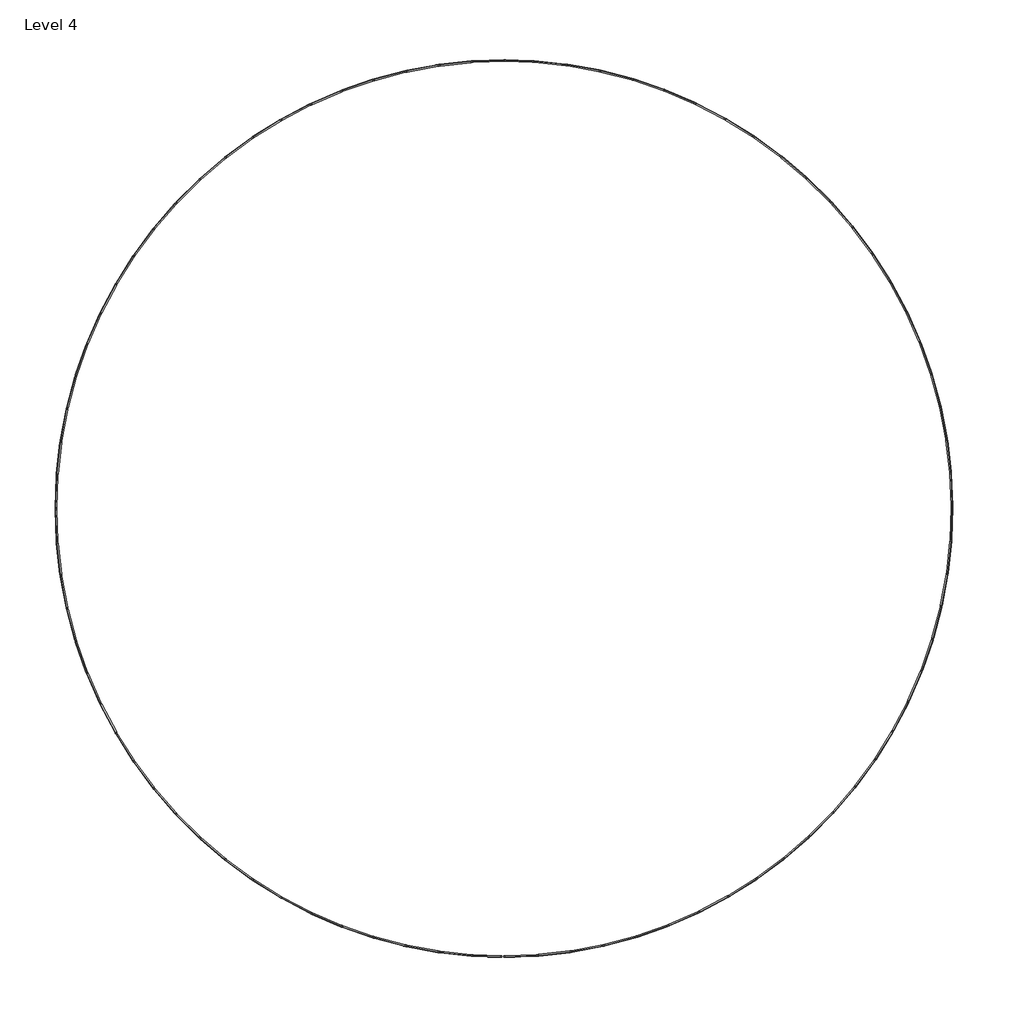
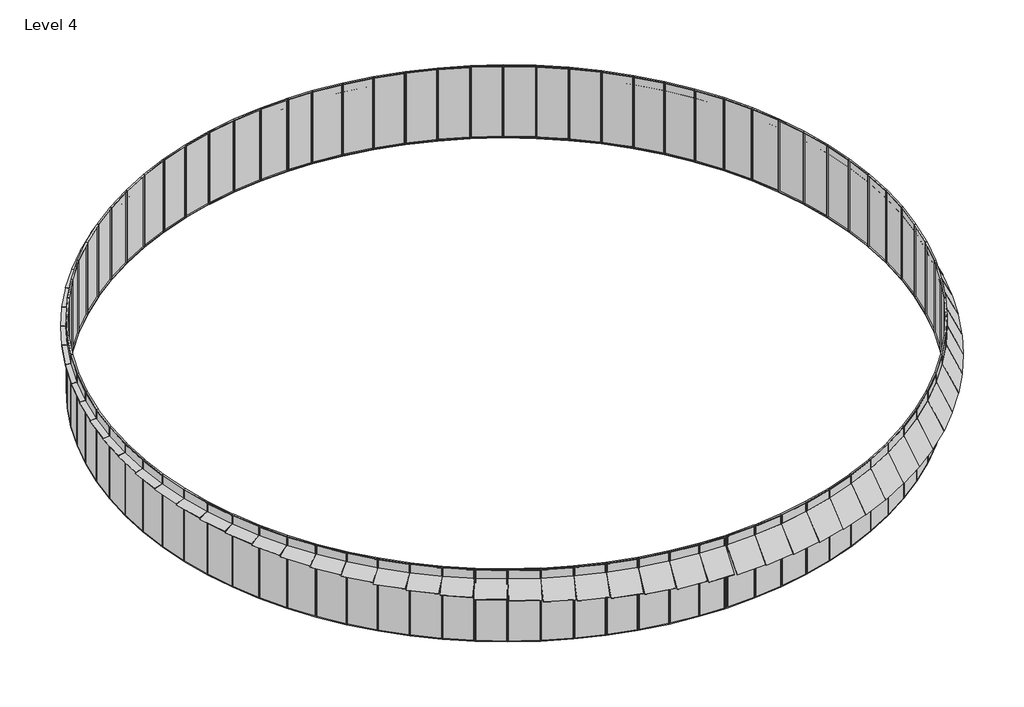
# One storey: 84 plates.
"""IFC4 building model written with IfcOpenShell, lengths in millimetres."""

from ifc_helpers import new_model, si_unit, origin, place, context, project, spatial, transform, mapped, element, save
from components import typical_panel_typical_panel_1dacabfa, typical_panel_typical_panel_de002282, typical_panel_typical_panel_c068772c, typical_panel_typical_panel_24d31985, typical_panel_typical_panel_bf64ccab, typical_panel_typical_panel_7269d920, typical_panel_typical_panel_007911d2, typical_panel_typical_panel_4d8c99ed, typical_panel_typical_panel_fa7228e3, typical_panel_typical_panel_21f6f527, typical_panel_typical_panel_994178b1, typical_panel_typical_panel_c4bb10ae, typical_panel_typical_panel_636d6651, typical_panel_typical_panel_3eeb6f99, typical_panel_typical_panel_d72680d6, typical_panel_typical_panel_fb959741, typical_panel_typical_panel_530a7cf6, typical_panel_typical_panel_7dcf532a, typical_panel_typical_panel_64653f65, typical_panel_typical_panel_a58b40de, typical_panel_typical_panel_9cbe78d2, typical_panel_typical_panel_3d8b9d05, typical_panel_typical_panel_1fc3b25d, typical_panel_typical_panel_199775df, typical_panel_typical_panel_5af8f8b4, typical_panel_typical_panel_9333b02c, typical_panel_typical_panel_dc0afd6a, typical_panel_typical_panel_484bad6c, typical_panel_typical_panel_78da2cf4, typical_panel_typical_panel_ad1c7da8, typical_panel_typical_panel_823978b0, typical_panel_typical_panel_4a132dac, typical_panel_typical_panel_328596d2, typical_panel_typical_panel_e094c6e8, typical_panel_typical_panel_4f07c011, typical_panel_typical_panel_1149305a, typical_panel_typical_panel_529db082, typical_panel_typical_panel_4d45919f, typical_panel_typical_panel_7d76078b, typical_panel_typical_panel_77cb67d9, typical_panel_typical_panel_1d00d27b, typical_panel_typical_panel_c6367479, typical_panel_typical_panel_41a3be12, typical_panel_typical_panel_8b2101b3, typical_panel_typical_panel_bbcebb09, typical_panel_typical_panel_16c89cbd, typical_panel_typical_panel_3222c149, typical_panel_typical_panel_e5a42394, typical_panel_typical_panel_2061968d, typical_panel_typical_panel_abac9c48, typical_panel_typical_panel_9d5c9c45, typical_panel_typical_panel_519964b2, typical_panel_typical_panel_5b56934d, typical_panel_typical_panel_f94381c8, typical_panel_typical_panel_f5345e9d, typical_panel_typical_panel_2c4e3443, typical_panel_typical_panel_39513247, typical_panel_typical_panel_b0a5b154, typical_panel_typical_panel_b5d764b4, typical_panel_typical_panel_f84c47da, typical_panel_typical_panel_3a207b21, typical_panel_typical_panel_b37b2822, typical_panel_typical_panel_48698c2b, typical_panel_typical_panel_2ea1af38, typical_panel_typical_panel_f19e842e, typical_panel_typical_panel_6d4a68ef

model = new_model("IFC4")

# Units and contexts
model_context = context("Model", 3, world=origin())
ifc_project = project(units=[si_unit("LENGTHUNIT", "METRE", prefix="MILLI")], contexts=[model_context])

# Site, building, storey
site = spatial("IfcSite", under=ifc_project)
building = spatial("IfcBuilding", under=site)
storey = spatial("IfcBuildingStorey", under=building, Name="Level 4", Elevation=12000.0)

# Plates
placement = place(None, origin())
typical_panel_typical_panel_shape = typical_panel_typical_panel_1dacabfa(model_context)
element("IfcPlate", 1, ObjectType="Typical Panel : Typical Panel", at=placement, inside=storey, context=model_context, shape_type="MappedRepresentation", body=[
    mapped(typical_panel_typical_panel_shape, transform((19849.0627371, 2334.9964577, 12000.0), x_axis=(-0.1168319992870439, 0.9931516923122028, 0.0), y_axis=(-0.9931516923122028, -0.1168319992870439, 0.0), z_axis=(0.0, 0.0, 1.0))),
])
typical_panel_typical_panel_2_shape = typical_panel_typical_panel_de002282(model_context)
element("IfcPlate", 2, ObjectType="Typical Panel : Typical Panel", at=placement, inside=storey, context=model_context, shape_type="MappedRepresentation", body=[
    mapped(typical_panel_typical_panel_2_shape, transform((5187.4522204, -19300.980272, 12000.0), x_axis=(0.9657282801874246, 0.25955517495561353, 0.0), y_axis=(-0.25955517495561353, 0.9657282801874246, 0.0), z_axis=(0.0, 0.0, 1.0))),
])
element("IfcPlate", 3, ObjectType="Typical Panel : Typical Panel", at=placement, inside=storey, context=model_context, shape_type="MappedRepresentation", body=[
    mapped(typical_panel_typical_panel_2_shape, transform((19618.2356917, 3816.0618893, 12000.0), x_axis=(-0.1909373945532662, 0.9816022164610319, 0.0), y_axis=(-0.9816022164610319, -0.1909373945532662, 0.0), z_axis=(0.0, 0.0, 1.0))),
])
typical_panel_typical_panel_3_shape = typical_panel_typical_panel_c068772c(model_context)
element("IfcPlate", 4, ObjectType="Typical Panel : Typical Panel", at=placement, inside=storey, context=model_context, shape_type="MappedRepresentation", body=[
    mapped(typical_panel_typical_panel_3_shape, transform((19277.0560706, 5275.6619728, 12000.0), x_axis=(-0.26396876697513, 0.9645312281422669, 0.0), y_axis=(-0.9645312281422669, -0.26396876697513, 0.0), z_axis=(0.0, 0.0, 1.0))),
])
typical_panel_typical_panel_4_shape = typical_panel_typical_panel_24d31985(model_context)
element("IfcPlate", 5, ObjectType="Typical Panel : Typical Panel", at=placement, inside=storey, context=model_context, shape_type="MappedRepresentation", body=[
    mapped(typical_panel_typical_panel_4_shape, transform((18271.9255806, 8097.7920187, 12000.0), x_axis=(-0.40517458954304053, 0.9142393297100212, 0.0), y_axis=(-0.9142393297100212, -0.40517458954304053, 0.0), z_axis=(0.0, 0.0, 1.0))),
])
typical_panel_typical_panel_5_shape = typical_panel_typical_panel_bf64ccab(model_context)
element("IfcPlate", 6, ObjectType="Typical Panel : Typical Panel", at=placement, inside=storey, context=model_context, shape_type="MappedRepresentation", body=[
    mapped(typical_panel_typical_panel_5_shape, transform((17613.6285707, 9444.4474996, 12000.0), x_axis=(-0.47255475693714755, 0.8813013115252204, 0.0), y_axis=(-0.8813013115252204, -0.47255475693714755, 0.0), z_axis=(0.0, 0.0, 1.0))),
])
typical_panel_typical_panel_6_shape = typical_panel_typical_panel_7269d920(model_context)
element("IfcPlate", 7, ObjectType="Typical Panel : Typical Panel", at=placement, inside=storey, context=model_context, shape_type="MappedRepresentation", body=[
    mapped(typical_panel_typical_panel_6_shape, transform((16856.2549002, 10737.9779633, 12000.0), x_axis=(-0.5372768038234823, 0.8434059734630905, 0.0), y_axis=(-0.8434059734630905, -0.5372768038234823, 0.0), z_axis=(0.0, 0.0, 1.0))),
])
typical_panel_typical_panel_7_shape = typical_panel_typical_panel_007911d2(model_context)
element("IfcPlate", 8, ObjectType="Typical Panel : Typical Panel", at=placement, inside=storey, context=model_context, shape_type="MappedRepresentation", body=[
    mapped(typical_panel_typical_panel_7_shape, transform((16004.0647958, 11971.107301, 12000.0), x_axis=(-0.5989766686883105, 0.8007664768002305, 0.0), y_axis=(-0.8007664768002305, -0.5989766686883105, 0.0), z_axis=(0.0, 0.0, 1.0))),
])
typical_panel_typical_panel_8_shape = typical_panel_typical_panel_4d8c99ed(model_context)
element("IfcPlate", 9, ObjectType="Typical Panel : Typical Panel", at=placement, inside=storey, context=model_context, shape_type="MappedRepresentation", body=[
    mapped(typical_panel_typical_panel_8_shape, transform((14034.9159415, 14228.7959615, 12000.0), x_axis=(-0.7119405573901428, 0.7022397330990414, 0.0), y_axis=(-0.7022397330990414, -0.7119405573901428, 0.0), z_axis=(0.0, 0.0, 1.0))),
])
typical_panel_typical_panel_9_shape = typical_panel_typical_panel_fa7228e3(model_context)
element("IfcPlate", 10, ObjectType="Typical Panel : Typical Panel", at=placement, inside=storey, context=model_context, shape_type="MappedRepresentation", body=[
    mapped(typical_panel_typical_panel_9_shape, transform((11750.4255521, 16166.7869209, 12000.0), x_axis=(-0.8089083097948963, 0.5879348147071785, 0.0), y_axis=(-0.5879348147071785, -0.8089083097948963, 0.0), z_axis=(0.0, 0.0, 1.0))),
])
typical_panel_typical_panel_10_shape = typical_panel_typical_panel_21f6f527(model_context)
element("IfcPlate", 11, ObjectType="Typical Panel : Typical Panel", at=placement, inside=storey, context=model_context, shape_type="MappedRepresentation", body=[
    mapped(typical_panel_typical_panel_10_shape, transform((10505.7213065, 17001.9798797, 12000.0), x_axis=(-0.8506973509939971, 0.5256557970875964, 0.0), y_axis=(-0.5256557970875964, -0.8506973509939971, 0.0), z_axis=(0.0, 0.0, 1.0))),
])
typical_panel_typical_panel_11_shape = typical_panel_typical_panel_994178b1(model_context)
element("IfcPlate", 12, ObjectType="Typical Panel : Typical Panel", at=placement, inside=storey, context=model_context, shape_type="MappedRepresentation", body=[
    mapped(typical_panel_typical_panel_11_shape, transform((7846.3626373, 18381.2973798, 12000.0), x_axis=(-0.9197117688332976, 0.39259427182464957, 0.0), y_axis=(-0.39259427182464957, -0.9197117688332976, 0.0), z_axis=(0.0, 0.0, 1.0))),
])
typical_panel_typical_panel_12_shape = typical_panel_typical_panel_c4bb10ae(model_context)
element("IfcPlate", 13, ObjectType="Typical Panel : Typical Panel", at=placement, inside=storey, context=model_context, shape_type="MappedRepresentation", body=[
    mapped(typical_panel_typical_panel_12_shape, transform((5010.7090725, 19347.6172846, 12000.0), x_axis=(-0.9680617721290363, 0.25071179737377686, 0.0), y_axis=(-0.25071179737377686, -0.9680617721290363, 0.0), z_axis=(0.0, 0.0, 1.0))),
])
typical_panel_typical_panel_13_shape = typical_panel_typical_panel_636d6651(model_context)
element("IfcPlate", 14, ObjectType="Typical Panel : Typical Panel", at=placement, inside=storey, context=model_context, shape_type="MappedRepresentation", body=[
    mapped(typical_panel_typical_panel_13_shape, transform((3546.5658003, 19668.7409618, 12000.0), x_axis=(-0.9841292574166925, 0.1774531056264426, 0.0), y_axis=(-0.1774531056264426, -0.9841292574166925, 0.0), z_axis=(0.0, 0.0, 1.0))),
])
typical_panel_typical_panel_14_shape = typical_panel_typical_panel_3eeb6f99(model_context)
element("IfcPlate", 15, ObjectType="Typical Panel : Typical Panel", at=placement, inside=storey, context=model_context, shape_type="MappedRepresentation", body=[
    mapped(typical_panel_typical_panel_14_shape, transform((2062.4730955, 19879.2279712, 12000.0), x_axis=(-0.9946610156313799, 0.10319624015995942, 0.0), y_axis=(-0.10319624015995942, -0.9946610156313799, 0.0), z_axis=(0.0, 0.0, 1.0))),
])
typical_panel_typical_panel_15_shape = typical_panel_typical_panel_d72680d6(model_context)
element("IfcPlate", 16, ObjectType="Typical Panel : Typical Panel", at=placement, inside=storey, context=model_context, shape_type="MappedRepresentation", body=[
    mapped(typical_panel_typical_panel_15_shape, transform((-2153.3010373, 19869.5947277, 12000.0), x_axis=(-0.9941790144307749, -0.10774083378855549, 0.0), y_axis=(0.10774083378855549, -0.9941790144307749, 0.0), z_axis=(0.0, 0.0, 1.0))),
])
typical_panel_typical_panel_16_shape = typical_panel_typical_panel_fb959741(model_context)
element("IfcPlate", 17, ObjectType="Typical Panel : Typical Panel", at=placement, inside=storey, context=model_context, shape_type="MappedRepresentation", body=[
    mapped(typical_panel_typical_panel_16_shape, transform((-5099.0767278, 19324.5159454, 12000.0), x_axis=(-0.9669058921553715, -0.25513329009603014, 0.0), y_axis=(0.25513329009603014, -0.9669058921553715, 0.0), z_axis=(0.0, 0.0, 1.0))),
])
element("IfcPlate", 18, ObjectType="Typical Panel : Typical Panel", at=placement, inside=storey, context=model_context, shape_type="MappedRepresentation", body=[
    mapped(typical_panel_typical_panel_16_shape, transform((-19635.4925688, -3726.248996, 12000.0), x_axis=(0.1864435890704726, -0.9824656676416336, 0.0), y_axis=(0.9824656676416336, 0.1864435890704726, 0.0), z_axis=(0.0, 0.0, 1.0))),
])
typical_panel_typical_panel_17_shape = typical_panel_typical_panel_530a7cf6(model_context)
element("IfcPlate", 19, ObjectType="Typical Panel : Typical Panel", at=placement, inside=storey, context=model_context, shape_type="MappedRepresentation", body=[
    mapped(typical_panel_typical_panel_17_shape, transform((-7930.2845299, 18345.2469941, 12000.0), x_axis=(-0.9179079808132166, -0.39679331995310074, 0.0), y_axis=(0.39679331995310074, -0.9179079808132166, 0.0), z_axis=(0.0, 0.0, 1.0))),
])
element("IfcPlate", 20, ObjectType="Typical Panel : Typical Panel", at=placement, inside=storey, context=model_context, shape_type="MappedRepresentation", body=[
    mapped(typical_panel_typical_panel_17_shape, transform((-19971.8772198, -749.4133163, 12000.0), x_axis=(0.03749704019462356, -0.9992967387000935, 0.0), y_axis=(0.9992967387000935, 0.03749704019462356, 0.0), z_axis=(0.0, 0.0, 1.0))),
])
typical_panel_typical_panel_18_shape = typical_panel_typical_panel_7dcf532a(model_context)
element("IfcPlate", 21, ObjectType="Typical Panel : Typical Panel", at=placement, inside=storey, context=model_context, shape_type="MappedRepresentation", body=[
    mapped(typical_panel_typical_panel_18_shape, transform((-9282.9063638, 17699.2979929, 12000.0), x_axis=(-0.8855877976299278, -0.4644720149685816, 0.0), y_axis=(0.4644720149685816, -0.8855877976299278, 0.0), z_axis=(0.0, 0.0, 1.0))),
])
element("IfcPlate", 22, ObjectType="Typical Panel : Typical Panel", at=placement, inside=storey, context=model_context, shape_type="MappedRepresentation", body=[
    mapped(typical_panel_typical_panel_18_shape, transform((-19971.8727801, 749.5316252, 12000.0), x_axis=(-0.037502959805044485, -0.9992965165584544, 0.0), y_axis=(0.9992965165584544, -0.037502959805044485, 0.0), z_axis=(0.0, 0.0, 1.0))),
])
typical_panel_typical_panel_19_shape = typical_panel_typical_panel_64653f65(model_context)
element("IfcPlate", 23, ObjectType="Typical Panel : Typical Panel", at=placement, inside=storey, context=model_context, shape_type="MappedRepresentation", body=[
    mapped(typical_panel_typical_panel_19_shape, transform((-10583.3118493, 16953.7904405, 12000.0), x_axis=(-0.8482861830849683, -0.5295380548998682, 0.0), y_axis=(0.5295380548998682, -0.8482861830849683, 0.0), z_axis=(0.0, 0.0, 1.0))),
])
typical_panel_typical_panel_20_shape = typical_panel_typical_panel_a58b40de(model_context)
element("IfcPlate", 24, ObjectType="Typical Panel : Typical Panel", at=placement, inside=storey, context=model_context, shape_type="MappedRepresentation", body=[
    mapped(typical_panel_typical_panel_20_shape, transform((-11824.1862057, 16112.9178169, 12000.0), x_axis=(-0.806212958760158, -0.5916254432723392, 0.0), y_axis=(0.5916254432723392, -0.806212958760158, 0.0), z_axis=(0.0, 0.0, 1.0))),
])
element("IfcPlate", 25, ObjectType="Typical Panel : Typical Panel", at=placement, inside=storey, context=model_context, shape_type="MappedRepresentation", body=[
    mapped(typical_panel_typical_panel_20_shape, transform((-19635.470495, 3726.3653123, 12000.0), x_axis=(-0.18644940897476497, -0.9824645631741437, 0.0), y_axis=(0.9824645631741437, -0.18644940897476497, 0.0), z_axis=(0.0, 0.0, 1.0))),
])
typical_panel_typical_panel_21_shape = typical_panel_typical_panel_9cbe78d2(model_context)
element("IfcPlate", 26, ObjectType="Typical Panel : Typical Panel", at=placement, inside=storey, context=model_context, shape_type="MappedRepresentation", body=[
    mapped(typical_panel_typical_panel_21_shape, transform((-12998.5495147, 15181.4100305, 12000.0), x_axis=(-0.7596047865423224, -0.6503849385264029, 0.0), y_axis=(0.6503849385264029, -0.7596047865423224, 0.0), z_axis=(0.0, 0.0, 1.0))),
])
element("IfcPlate", 27, ObjectType="Typical Panel : Typical Panel", at=placement, inside=storey, context=model_context, shape_type="MappedRepresentation", body=[
    mapped(typical_panel_typical_panel_21_shape, transform((-19300.9649125, 5187.5093684, 12000.0), x_axis=(-0.2595580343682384, -0.9657275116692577, 0.0), y_axis=(0.9657275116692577, -0.2595580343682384, 0.0), z_axis=(0.0, 0.0, 1.0))),
])
typical_panel_typical_panel_22_shape = typical_panel_typical_panel_3d8b9d05(model_context)
element("IfcPlate", 28, ObjectType="Typical Panel : Typical Panel", at=placement, inside=storey, context=model_context, shape_type="MappedRepresentation", body=[
    mapped(typical_panel_typical_panel_22_shape, transform((-14099.7959826, 14164.5068128, 12000.0), x_axis=(-0.7087238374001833, -0.7054860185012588, 0.0), y_axis=(0.7054860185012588, -0.7087238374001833, 0.0), z_axis=(0.0, 0.0, 1.0))),
])
element("IfcPlate", 29, ObjectType="Typical Panel : Typical Panel", at=placement, inside=storey, context=model_context, shape_type="MappedRepresentation", body=[
    mapped(typical_panel_typical_panel_22_shape, transform((-18857.8914023, 6619.4736843, 12000.0), x_axis=(-0.3312066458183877, -0.9435582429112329, 0.0), y_axis=(0.9435582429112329, -0.3312066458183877, 0.0), z_axis=(0.0, 0.0, 1.0))),
])
typical_panel_typical_panel_23_shape = typical_panel_typical_panel_1fc3b25d(model_context)
element("IfcPlate", 30, ObjectType="Typical Panel : Typical Panel", at=placement, inside=storey, context=model_context, shape_type="MappedRepresentation", body=[
    mapped(typical_panel_typical_panel_23_shape, transform((-15121.7310982, 13067.9282442, 12000.0), x_axis=(-0.6538563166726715, -0.7566187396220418, 0.0), y_axis=(0.7566187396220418, -0.6538563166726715, 0.0), z_axis=(0.0, 0.0, 1.0))),
])
element("IfcPlate", 31, ObjectType="Typical Panel : Typical Panel", at=placement, inside=storey, context=model_context, shape_type="MappedRepresentation", body=[
    mapped(typical_panel_typical_panel_23_shape, transform((-18308.7422531, 8014.2034608, 12000.0), x_axis=(-0.4009922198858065, -0.9160814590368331, 0.0), y_axis=(0.9160814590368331, -0.4009922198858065, 0.0), z_axis=(0.0, 0.0, 1.0))),
])
typical_panel_typical_panel_24_shape = typical_panel_typical_panel_199775df(model_context)
element("IfcPlate", 32, ObjectType="Typical Panel : Typical Panel", at=placement, inside=storey, context=model_context, shape_type="MappedRepresentation", body=[
    mapped(typical_panel_typical_panel_24_shape, transform((-16058.6064763, 11897.8425792, 12000.0), x_axis=(-0.5953108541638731, -0.8034954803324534, 0.0), y_axis=(0.8034954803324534, -0.5953108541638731, 0.0), z_axis=(0.0, 0.0, 1.0))),
])
element("IfcPlate", 33, ObjectType="Typical Panel : Typical Panel", at=placement, inside=storey, context=model_context, shape_type="MappedRepresentation", body=[
    mapped(typical_panel_typical_panel_24_shape, transform((-16905.152193, 10660.8315497, 12000.0), x_axis=(-0.5334167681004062, -0.8458525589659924, 0.0), y_axis=(0.8458525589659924, -0.5334167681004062, 0.0), z_axis=(0.0, 0.0, 1.0))),
])
element("IfcPlate", 34, ObjectType="Typical Panel : Typical Panel", at=placement, inside=storey, context=model_context, shape_type="MappedRepresentation", body=[
    mapped(typical_panel_typical_panel_24_shape, transform((-17656.6064286, 9363.8533428, 12000.0), x_axis=(-0.4685222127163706, -0.8834517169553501, 0.0), y_axis=(0.8834517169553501, -0.4685222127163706, 0.0), z_axis=(0.0, 0.0, 1.0))),
])
typical_panel_typical_panel_25_shape = typical_panel_typical_panel_5af8f8b4(model_context)
element("IfcPlate", 35, ObjectType="Typical Panel : Typical Panel", at=placement, inside=storey, context=model_context, shape_type="MappedRepresentation", body=[
    mapped(typical_panel_typical_panel_25_shape, transform((-19859.526556, 2244.2604512, 12000.0), x_axis=(-0.11229200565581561, -0.9936752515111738, 0.0), y_axis=(0.9936752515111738, -0.11229200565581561, 0.0), z_axis=(0.0, 0.0, 1.0))),
])
typical_panel_typical_panel_26_shape = typical_panel_typical_panel_9333b02c(model_context)
element("IfcPlate", 36, ObjectType="Typical Panel : Typical Panel", at=placement, inside=storey, context=model_context, shape_type="MappedRepresentation", body=[
    mapped(typical_panel_typical_panel_26_shape, transform((-19859.5398501, -2244.1428078, 12000.0), x_axis=(0.11228611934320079, -0.9936759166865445, 0.0), y_axis=(0.9936759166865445, 0.11228611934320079, 0.0), z_axis=(0.0, 0.0, 1.0))),
])
typical_panel_typical_panel_27_shape = typical_panel_typical_panel_dc0afd6a(model_context)
element("IfcPlate", 37, ObjectType="Typical Panel : Typical Panel", at=placement, inside=storey, context=model_context, shape_type="MappedRepresentation", body=[
    mapped(typical_panel_typical_panel_27_shape, transform((-3636.4163034, 19652.3275077, 12000.0), x_axis=(-0.983308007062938, -0.18194879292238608, 0.0), y_axis=(0.18194879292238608, -0.983308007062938, 0.0), z_axis=(0.0, 0.0, 1.0))),
])
element("IfcPlate", 38, ObjectType="Typical Panel : Typical Panel", at=placement, inside=storey, context=model_context, shape_type="MappedRepresentation", body=[
    mapped(typical_panel_typical_panel_27_shape, transform((-19300.9956418, -5187.3950337, 12000.0), x_axis=(0.25955231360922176, -0.9657290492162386, 0.0), y_axis=(0.9657290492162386, 0.25955231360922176, 0.0), z_axis=(0.0, 0.0, 1.0))),
])
typical_panel_typical_panel_28_shape = typical_panel_typical_panel_484bad6c(model_context)
element("IfcPlate", 39, ObjectType="Typical Panel : Typical Panel", at=placement, inside=storey, context=model_context, shape_type="MappedRepresentation", body=[
    mapped(typical_panel_typical_panel_28_shape, transform((-18857.9306143, -6619.3619743, 12000.0), x_axis=(0.3312010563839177, -0.9435602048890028, 0.0), y_axis=(0.9435602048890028, 0.3312010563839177, 0.0), z_axis=(0.0, 0.0, 1.0))),
])
typical_panel_typical_panel_29_shape = typical_panel_typical_panel_78da2cf4(model_context)
element("IfcPlate", 40, ObjectType="Typical Panel : Typical Panel", at=placement, inside=storey, context=model_context, shape_type="MappedRepresentation", body=[
    mapped(typical_panel_typical_panel_29_shape, transform((-18308.7897271, -8014.0950037, 12000.0), x_axis=(0.4009867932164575, -0.9160838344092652, 0.0), y_axis=(0.9160838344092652, 0.4009867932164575, 0.0), z_axis=(0.0, 0.0, 1.0))),
])
typical_panel_typical_panel_30_shape = typical_panel_typical_panel_ad1c7da8(model_context)
element("IfcPlate", 41, ObjectType="Typical Panel : Typical Panel", at=placement, inside=storey, context=model_context, shape_type="MappedRepresentation", body=[
    mapped(typical_panel_typical_panel_30_shape, transform((-17656.6618977, -9363.7487488, 12000.0), x_axis=(0.46851697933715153, -0.8834544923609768, 0.0), y_axis=(0.8834544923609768, 0.46851697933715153, 0.0), z_axis=(0.0, 0.0, 1.0))),
])
typical_panel_typical_panel_31_shape = typical_panel_typical_panel_823978b0(model_context)
element("IfcPlate", 42, ObjectType="Typical Panel : Typical Panel", at=placement, inside=storey, context=model_context, shape_type="MappedRepresentation", body=[
    mapped(typical_panel_typical_panel_31_shape, transform((-16905.2153451, -10660.7314072, 12000.0), x_axis=(0.5334117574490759, -0.845855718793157, 0.0), y_axis=(0.845855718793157, 0.5334117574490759, 0.0), z_axis=(0.0, 0.0, 1.0))),
])
typical_panel_typical_panel_32_shape = typical_panel_typical_panel_4a132dac(model_context)
element("IfcPlate", 43, ObjectType="Typical Panel : Typical Panel", at=placement, inside=storey, context=model_context, shape_type="MappedRepresentation", body=[
    mapped(typical_panel_typical_panel_32_shape, transform((-16058.6769562, -11897.7474514, 12000.0), x_axis=(0.5953060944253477, -0.8034990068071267, 0.0), y_axis=(0.8034990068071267, 0.5953060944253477, 0.0), z_axis=(0.0, 0.0, 1.0))),
])
typical_panel_typical_panel_33_shape = typical_panel_typical_panel_328596d2(model_context)
element("IfcPlate", 44, ObjectType="Typical Panel : Typical Panel", at=placement, inside=storey, context=model_context, shape_type="MappedRepresentation", body=[
    mapped(typical_panel_typical_panel_33_shape, transform((-15121.8085094, -13067.8386662, 12000.0), x_axis=(0.6538518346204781, -0.7566226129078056, 0.0), y_axis=(0.7566226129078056, 0.6538518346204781, 0.0), z_axis=(0.0, 0.0, 1.0))),
])
typical_panel_typical_panel_34_shape = typical_panel_typical_panel_e094c6e8(model_context)
element("IfcPlate", 45, ObjectType="Typical Panel : Typical Panel", at=placement, inside=storey, context=model_context, shape_type="MappedRepresentation", body=[
    mapped(typical_panel_typical_panel_34_shape, transform((-14099.8798898, -14164.4232885, 12000.0), x_axis=(0.7087196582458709, -0.7054902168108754, 0.0), y_axis=(0.7054902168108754, 0.7087196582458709, 0.0), z_axis=(0.0, 0.0, 1.0))),
])
typical_panel_typical_panel_35_shape = typical_panel_typical_panel_4f07c011(model_context)
element("IfcPlate", 46, ObjectType="Typical Panel : Typical Panel", at=placement, inside=storey, context=model_context, shape_type="MappedRepresentation", body=[
    mapped(typical_panel_typical_panel_35_shape, transform((-12998.6394457, -15181.3330297, 12000.0), x_axis=(0.7596009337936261, -0.6503894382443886, 0.0), y_axis=(0.6503894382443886, 0.7596009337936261, 0.0), z_axis=(0.0, 0.0, 1.0))),
])
typical_panel_typical_panel_36_shape = typical_panel_typical_panel_1149305a(model_context)
element("IfcPlate", 47, ObjectType="Typical Panel : Typical Panel", at=placement, inside=storey, context=model_context, shape_type="MappedRepresentation", body=[
    mapped(typical_panel_typical_panel_36_shape, transform((-11824.2816548, -16112.8477727, 12000.0), x_axis=(0.8062094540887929, -0.5916302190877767, 0.0), y_axis=(0.5916302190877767, 0.8062094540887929, 0.0), z_axis=(0.0, 0.0, 1.0))),
])
typical_panel_typical_panel_37_shape = typical_panel_typical_panel_529db082(model_context)
element("IfcPlate", 48, ObjectType="Typical Panel : Typical Panel", at=placement, inside=storey, context=model_context, shape_type="MappedRepresentation", body=[
    mapped(typical_panel_typical_panel_37_shape, transform((-10583.4122796, -16953.727747, 12000.0), x_axis=(0.8482830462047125, -0.5295430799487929, 0.0), y_axis=(0.5295430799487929, 0.8482830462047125, 0.0), z_axis=(0.0, 0.0, 1.0))),
])
typical_panel_typical_panel_38_shape = typical_panel_typical_panel_4d45919f(model_context)
element("IfcPlate", 49, ObjectType="Typical Panel : Typical Panel", at=placement, inside=storey, context=model_context, shape_type="MappedRepresentation", body=[
    mapped(typical_panel_typical_panel_38_shape, transform((-9283.0112103, -17699.2430027, 12000.0), x_axis=(0.8855850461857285, -0.46447726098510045, 0.0), y_axis=(0.46447726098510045, 0.8855850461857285, 0.0), z_axis=(0.0, 0.0, 1.0))),
])
typical_panel_typical_panel_39_shape = typical_panel_typical_panel_7d76078b(model_context)
element("IfcPlate", 50, ObjectType="Typical Panel : Typical Panel", at=placement, inside=storey, context=model_context, shape_type="MappedRepresentation", body=[
    mapped(typical_panel_typical_panel_39_shape, transform((-7930.3932029, -18345.2000165, 12000.0), x_axis=(0.917905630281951, -0.39679875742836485, 0.0), y_axis=(0.39679875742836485, 0.917905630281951, 0.0), z_axis=(0.0, 0.0, 1.0))),
])
typical_panel_typical_panel_40_shape = typical_panel_typical_panel_77cb67d9(model_context)
element("IfcPlate", 51, ObjectType="Typical Panel : Typical Panel", at=placement, inside=storey, context=model_context, shape_type="MappedRepresentation", body=[
    mapped(typical_panel_typical_panel_40_shape, transform((-6533.1667338, -18887.9652803, 12000.0), x_axis=(0.9450629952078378, -0.32688826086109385, 0.0), y_axis=(0.32688826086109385, 0.9450629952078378, 0.0), z_axis=(0.0, 0.0, 1.0))),
])
typical_panel_typical_panel_41_shape = typical_panel_typical_panel_1d00d27b(model_context)
element("IfcPlate", 52, ObjectType="Typical Panel : Typical Panel", at=placement, inside=storey, context=model_context, shape_type="MappedRepresentation", body=[
    mapped(typical_panel_typical_panel_41_shape, transform((-5099.1912018, -19324.4857393, 12000.0), x_axis=(0.9669043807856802, -0.2551390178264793, 0.0), y_axis=(0.2551390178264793, 0.9669043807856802, 0.0), z_axis=(0.0, 0.0, 1.0))),
])
typical_panel_typical_panel_42_shape = typical_panel_typical_panel_c6367479(model_context)
element("IfcPlate", 53, ObjectType="Typical Panel : Typical Panel", at=placement, inside=storey, context=model_context, shape_type="MappedRepresentation", body=[
    mapped(typical_panel_typical_panel_42_shape, transform((-3636.5327193, -19652.305966, 12000.0), x_axis=(0.9833069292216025, -0.1819546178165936, 0.0), y_axis=(0.1819546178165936, 0.9833069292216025, 0.0), z_axis=(0.0, 0.0, 1.0))),
])
typical_panel_typical_panel_43_shape = typical_panel_typical_panel_41a3be12(model_context)
element("IfcPlate", 54, ObjectType="Typical Panel : Typical Panel", at=placement, inside=storey, context=model_context, shape_type="MappedRepresentation", body=[
    mapped(typical_panel_typical_panel_43_shape, transform((-2153.4187403, -19869.5819717, 12000.0), x_axis=(0.9941783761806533, -0.10774672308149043, 0.0), y_axis=(0.10774672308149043, 0.9941783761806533, 0.0), z_axis=(0.0, 0.0, 1.0))),
])
typical_panel_typical_panel_44_shape = typical_panel_typical_panel_8b2101b3(model_context)
element("IfcPlate", 55, ObjectType="Typical Panel : Typical Panel", at=placement, inside=storey, context=model_context, shape_type="MappedRepresentation", body=[
    mapped(typical_panel_typical_panel_44_shape, transform((2244.2016494, -19859.5332009, 12000.0), x_axis=(0.993675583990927, 0.11228906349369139, 0.0), y_axis=(-0.11228906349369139, 0.993675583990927, 0.0), z_axis=(0.0, 0.0, 1.0))),
])
typical_panel_typical_panel_45_shape = typical_panel_typical_panel_bbcebb09(model_context)
element("IfcPlate", 56, ObjectType="Typical Panel : Typical Panel", at=placement, inside=storey, context=model_context, shape_type="MappedRepresentation", body=[
    mapped(typical_panel_typical_panel_45_shape, transform((6619.4178482, -18857.9110018, 12000.0), x_axis=(0.9435592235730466, 0.33120385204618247, 0.0), y_axis=(-0.33120385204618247, 0.9435592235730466, 0.0), z_axis=(0.0, 0.0, 1.0))),
])
typical_panel_typical_panel_46_shape = typical_panel_typical_panel_16c89cbd(model_context)
element("IfcPlate", 57, ObjectType="Typical Panel : Typical Panel", at=placement, inside=storey, context=model_context, shape_type="MappedRepresentation", body=[
    mapped(typical_panel_typical_panel_46_shape, transform((8014.1492506, -18308.7659821, 12000.0), x_axis=(0.9160826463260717, 0.4009895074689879, 0.0), y_axis=(-0.4009895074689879, 0.9160826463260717, 0.0), z_axis=(0.0, 0.0, 1.0))),
])
element("IfcPlate", 58, ObjectType="Typical Panel : Typical Panel", at=placement, inside=storey, context=model_context, shape_type="MappedRepresentation", body=[
    mapped(typical_panel_typical_panel_46_shape, transform((19968.2388046, 840.7966711, 12000.0), x_axis=(-0.04206942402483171, 0.9991146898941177, 0.0), y_axis=(-0.9991146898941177, -0.04206942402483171, 0.0), z_axis=(0.0, 0.0, 1.0))),
])
typical_panel_typical_panel_47_shape = typical_panel_typical_panel_3222c149(model_context)
element("IfcPlate", 59, ObjectType="Typical Panel : Typical Panel", at=placement, inside=storey, context=model_context, shape_type="MappedRepresentation", body=[
    mapped(typical_panel_typical_panel_47_shape, transform((9363.8010635, -17656.6341539, 12000.0), x_axis=(0.8834531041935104, 0.46851959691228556, 0.0), y_axis=(-0.46851959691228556, 0.8834531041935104, 0.0), z_axis=(0.0, 0.0, 1.0))),
])
element("IfcPlate", 60, ObjectType="Typical Panel : Typical Panel", at=placement, inside=storey, context=model_context, shape_type="MappedRepresentation", body=[
    mapped(typical_panel_typical_panel_47_shape, transform((19975.0935288, -658.1325968, 12000.0), x_axis=(0.032929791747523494, 0.9994576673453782, 0.0), y_axis=(-0.9994576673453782, 0.032929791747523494, 0.0), z_axis=(0.0, 0.0, 1.0))),
])
typical_panel_typical_panel_48_shape = typical_panel_typical_panel_e5a42394(model_context)
element("IfcPlate", 61, ObjectType="Typical Panel : Typical Panel", at=placement, inside=storey, context=model_context, shape_type="MappedRepresentation", body=[
    mapped(typical_panel_typical_panel_48_shape, transform((10660.7814954, -16905.1837585, 12000.0), x_axis=(0.8458541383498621, 0.5334142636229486, 0.0), y_axis=(-0.5334142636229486, 0.8458541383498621, 0.0), z_axis=(0.0, 0.0, 1.0))),
])
typical_panel_typical_panel_49_shape = typical_panel_typical_panel_2061968d(model_context)
element("IfcPlate", 62, ObjectType="Typical Panel : Typical Panel", at=placement, inside=storey, context=model_context, shape_type="MappedRepresentation", body=[
    mapped(typical_panel_typical_panel_49_shape, transform((11897.7950314, -16058.6417044, 12000.0), x_axis=(0.8034972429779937, 0.5953084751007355, 0.0), y_axis=(-0.5953084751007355, 0.8034972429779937, 0.0), z_axis=(0.0, 0.0, 1.0))),
])
element("IfcPlate", 63, ObjectType="Typical Panel : Typical Panel", at=placement, inside=storey, context=model_context, shape_type="MappedRepresentation", body=[
    mapped(typical_panel_typical_panel_49_shape, transform((19652.3167406, -3636.4744917, 12000.0), x_axis=(0.18195170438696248, 0.9833074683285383, 0.0), y_axis=(-0.9833074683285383, 0.18195170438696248, 0.0), z_axis=(0.0, 0.0, 1.0))),
])
typical_panel_typical_panel_50_shape = typical_panel_typical_panel_abac9c48(model_context)
element("IfcPlate", 64, ObjectType="Typical Panel : Typical Panel", at=placement, inside=storey, context=model_context, shape_type="MappedRepresentation", body=[
    mapped(typical_panel_typical_panel_50_shape, transform((13067.8834703, -15121.7697908, 12000.0), x_axis=(0.7566206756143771, 0.6538540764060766, 0.0), y_axis=(-0.6538540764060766, 0.7566206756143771, 0.0), z_axis=(0.0, 0.0, 1.0))),
])
typical_panel_typical_panel_51_shape = typical_panel_typical_panel_9d5c9c45(model_context)
element("IfcPlate", 65, ObjectType="Typical Panel : Typical Panel", at=placement, inside=storey, context=model_context, shape_type="MappedRepresentation", body=[
    mapped(typical_panel_typical_panel_51_shape, transform((14164.4650648, -14099.8379221, 12000.0), x_axis=(0.7054881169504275, 0.7087217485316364, 0.0), y_axis=(-0.7087217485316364, 0.7054881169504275, 0.0), z_axis=(0.0, 0.0, 1.0))),
])
element("IfcPlate", 66, ObjectType="Typical Panel : Typical Panel", at=placement, inside=storey, context=model_context, shape_type="MappedRepresentation", body=[
    mapped(typical_panel_typical_panel_51_shape, transform((18887.9846372, -6533.1107709, 12000.0), x_axis=(0.32688546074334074, 0.9450639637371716, 0.0), y_axis=(-0.9450639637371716, 0.32688546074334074, 0.0), z_axis=(0.0, 0.0, 1.0))),
])
typical_panel_typical_panel_52_shape = typical_panel_typical_panel_519964b2(model_context)
element("IfcPlate", 67, ObjectType="Typical Panel : Typical Panel", at=placement, inside=storey, context=model_context, shape_type="MappedRepresentation", body=[
    mapped(typical_panel_typical_panel_52_shape, transform((15181.3715432, -12998.5944651, 12000.0), x_axis=(0.6503871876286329, 0.7596028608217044, 0.0), y_axis=(-0.7596028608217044, 0.6503871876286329, 0.0), z_axis=(0.0, 0.0, 1.0))),
])
element("IfcPlate", 68, ObjectType="Typical Panel : Typical Panel", at=placement, inside=storey, context=model_context, shape_type="MappedRepresentation", body=[
    mapped(typical_panel_typical_panel_52_shape, transform((18345.2235133, -7930.3388481, 12000.0), x_axis=(0.396796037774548, 0.9179068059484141, 0.0), y_axis=(-0.9179068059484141, 0.396796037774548, 0.0), z_axis=(0.0, 0.0, 1.0))),
])
typical_panel_typical_panel_53_shape = typical_panel_typical_panel_5b56934d(model_context)
element("IfcPlate", 69, ObjectType="Typical Panel : Typical Panel", at=placement, inside=storey, context=model_context, shape_type="MappedRepresentation", body=[
    mapped(typical_panel_typical_panel_53_shape, transform((16112.8828067, -11824.2339142, 12000.0), x_axis=(0.5916278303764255, 0.8062112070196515, 0.0), y_axis=(-0.8062112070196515, 0.5916278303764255, 0.0), z_axis=(0.0, 0.0, 1.0))),
])
element("IfcPlate", 70, ObjectType="Typical Panel : Typical Panel", at=placement, inside=storey, context=model_context, shape_type="MappedRepresentation", body=[
    mapped(typical_panel_typical_panel_53_shape, transform((16953.7591044, -10583.3620475, 12000.0), x_axis=(0.5295405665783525, 0.848284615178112, 0.0), y_axis=(-0.848284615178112, 0.5295405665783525, 0.0), z_axis=(0.0, 0.0, 1.0))),
])
element("IfcPlate", 71, ObjectType="Typical Panel : Typical Panel", at=placement, inside=storey, context=model_context, shape_type="MappedRepresentation", body=[
    mapped(typical_panel_typical_panel_53_shape, transform((17699.2705072, -9282.9587694, 12000.0), x_axis=(0.4644746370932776, 0.8855864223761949, 0.0), y_axis=(-0.8855864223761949, 0.4644746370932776, 0.0), z_axis=(0.0, 0.0, 1.0))),
])
typical_panel_typical_panel_54_shape = typical_panel_typical_panel_f94381c8(model_context)
element("IfcPlate", 72, ObjectType="Typical Panel : Typical Panel", at=placement, inside=storey, context=model_context, shape_type="MappedRepresentation", body=[
    mapped(typical_panel_typical_panel_54_shape, transform((19324.5008475, -5099.1339455, 12000.0), x_axis=(0.25513615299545, 0.9669051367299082, 0.0), y_axis=(-0.9669051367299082, 0.25513615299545, 0.0), z_axis=(0.0, 0.0, 1.0))),
])
typical_panel_typical_panel_55_shape = typical_panel_typical_panel_f5345e9d(model_context)
element("IfcPlate", 73, ObjectType="Typical Panel : Typical Panel", at=placement, inside=storey, context=model_context, shape_type="MappedRepresentation", body=[
    mapped(typical_panel_typical_panel_55_shape, transform((19869.5883519, -2153.3598689, 12000.0), x_axis=(0.10774377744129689, 0.994178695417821, 0.0), y_axis=(-0.994178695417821, 0.10774377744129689, 0.0), z_axis=(0.0, 0.0, 1.0))),
])
typical_panel_typical_panel_56_shape = typical_panel_typical_panel_2c4e3443(model_context)
element("IfcPlate", 74, ObjectType="Typical Panel : Typical Panel", at=placement, inside=storey, context=model_context, shape_type="MappedRepresentation", body=[
    mapped(typical_panel_typical_panel_56_shape, transform((9201.9223786, 17741.5367017, 12000.0), x_axis=(-0.8877012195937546, 0.4604199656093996, 0.0), y_axis=(-0.4604199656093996, -0.8877012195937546, 0.0), z_axis=(0.0, 0.0, 1.0))),
])
typical_panel_typical_panel_57_shape = typical_panel_typical_panel_39513247(model_context)
element("IfcPlate", 75, ObjectType="Typical Panel : Typical Panel", at=placement, inside=storey, context=model_context, shape_type="MappedRepresentation", body=[
    mapped(typical_panel_typical_panel_57_shape, transform((15061.8518269, 13136.8991602, 12000.0), x_axis=(-0.657307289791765, 0.7536226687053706, 0.0), y_axis=(-0.7536226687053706, -0.657307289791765, 0.0), z_axis=(0.0, 0.0, 1.0))),
])
typical_panel_typical_panel_58_shape = typical_panel_typical_panel_b0a5b154(model_context)
element("IfcPlate", 76, ObjectType="Typical Panel : Typical Panel", at=placement, inside=storey, context=model_context, shape_type="MappedRepresentation", body=[
    mapped(typical_panel_typical_panel_58_shape, transform((12929.033654, 15240.6557856, 12000.0), x_axis=(-0.762569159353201, 0.64690669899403, 0.0), y_axis=(-0.64690669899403, -0.762569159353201, 0.0), z_axis=(0.0, 0.0, 1.0))),
])
typical_panel_typical_panel_59_shape = typical_panel_typical_panel_b5d764b4(model_context)
element("IfcPlate", 77, ObjectType="Typical Panel : Typical Panel", at=placement, inside=storey, context=model_context, shape_type="MappedRepresentation", body=[
    mapped(typical_panel_typical_panel_59_shape, transform((749.4724807, -19971.8749993, 12000.0), x_axis=(0.9992966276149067, 0.037500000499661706, 0.0), y_axis=(-0.037500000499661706, 0.9992966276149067, 0.0), z_axis=(0.0, 0.0, 1.0))),
])
typical_panel_typical_panel_60_shape = typical_panel_typical_panel_f84c47da(model_context)
element("IfcPlate", 78, ObjectType="Typical Panel : Typical Panel", at=placement, inside=storey, context=model_context, shape_type="MappedRepresentation", body=[
    mapped(typical_panel_typical_panel_60_shape, transform((-658.0734428, 19975.0954773, 12000.0), x_axis=(-0.9994577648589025, -0.03292683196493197, 0.0), y_axis=(0.03292683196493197, -0.9994577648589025, 0.0), z_axis=(0.0, 0.0, 1.0))),
])
typical_panel_typical_panel_61_shape = typical_panel_typical_panel_3a207b21(model_context)
element("IfcPlate", 79, ObjectType="Typical Panel : Typical Panel", at=placement, inside=storey, context=model_context, shape_type="MappedRepresentation", body=[
    mapped(typical_panel_typical_panel_61_shape, transform((3726.3071738, -19635.4815283, 12000.0), x_axis=(0.9824651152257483, 0.18644650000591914, 0.0), y_axis=(-0.18644650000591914, 0.9824651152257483, 0.0), z_axis=(0.0, 0.0, 1.0))),
])
typical_panel_typical_panel_62_shape = typical_panel_typical_panel_b37b2822(model_context)
element("IfcPlate", 80, ObjectType="Typical Panel : Typical Panel", at=placement, inside=storey, context=model_context, shape_type="MappedRepresentation", body=[
    mapped(typical_panel_typical_panel_62_shape, transform((18827.4430091, 6705.5864576, 12000.0), x_axis=(-0.3355153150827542, 0.9420347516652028, 0.0), y_axis=(-0.9420347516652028, -0.3355153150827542, 0.0), z_axis=(0.0, 0.0, 1.0))),
])
typical_panel_typical_panel_63_shape = typical_panel_typical_panel_48698c2b(model_context)
element("IfcPlate", 81, ObjectType="Typical Panel : Typical Panel", at=placement, inside=storey, context=model_context, shape_type="MappedRepresentation", body=[
    mapped(typical_panel_typical_panel_63_shape, transform((6446.6671061, 18917.6632601, 12000.0), x_axis=(-0.9465489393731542, 0.322560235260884, 0.0), y_axis=(-0.322560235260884, -0.9465489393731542, 0.0), z_axis=(0.0, 0.0, 1.0))),
])
typical_panel_typical_panel_64_shape = typical_panel_typical_panel_2ea1af38(model_context)
element("IfcPlate", 82, ObjectType="Typical Panel : Typical Panel", at=placement, inside=storey, context=model_context, shape_type="MappedRepresentation", body=[
    mapped(typical_panel_typical_panel_64_shape, transform((658.2386669, 19978.3125757, 12000.0), x_axis=(-0.9994576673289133, 0.03292979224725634, 0.0), y_axis=(-0.03292979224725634, -0.9994576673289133, 0.0), z_axis=(0.0, 0.0, 1.0))),
])
typical_panel_typical_panel_65_shape = typical_panel_typical_panel_f19e842e(model_context)
element("IfcPlate", 83, ObjectType="Typical Panel : Typical Panel", at=placement, inside=storey, context=model_context, shape_type="MappedRepresentation", body=[
    mapped(typical_panel_typical_panel_65_shape, transform((-6533.0548456, 18888.0039809, 12000.0), x_axis=(-0.9450649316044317, -0.3268826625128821, 0.0), y_axis=(0.3268826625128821, -0.9450649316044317, 0.0), z_axis=(0.0, 0.0, 1.0))),
])
typical_panel_typical_panel_66_shape = typical_panel_typical_panel_6d4a68ef(model_context)
element("IfcPlate", 84, ObjectType="Typical Panel : Typical Panel", at=placement, inside=storey, context=model_context, shape_type="MappedRepresentation", body=[
    mapped(typical_panel_typical_panel_66_shape, transform((-749.6524245, -19975.0913078, 12000.0), x_axis=(0.9992965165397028, -0.03750296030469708, 0.0), y_axis=(0.03750296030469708, 0.9992965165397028, 0.0), z_axis=(0.0, 0.0, 1.0))),
])

save(model, "model.ifc")
